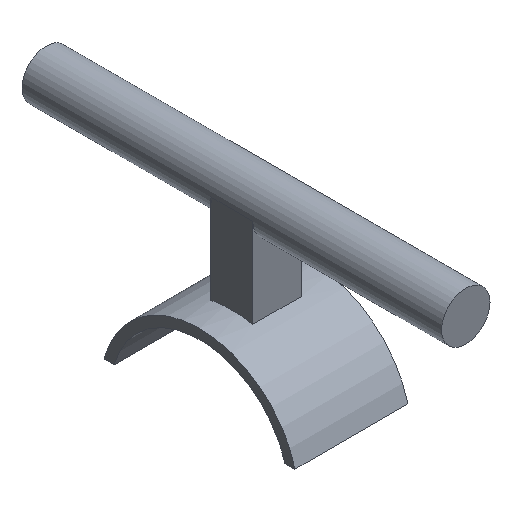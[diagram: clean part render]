
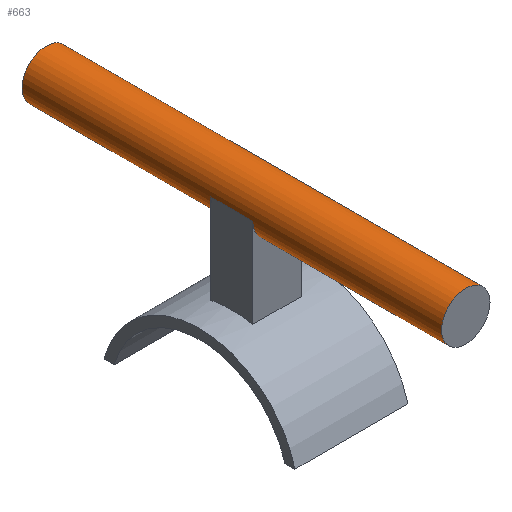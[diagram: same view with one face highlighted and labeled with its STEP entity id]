
A CAD part, isometric view. The second image highlights one B-rep face of the part: STEP entity #663.
In plain terms, the highlighted cylindrical face has radius 15 mm (diameter 30 mm), a full revolution.
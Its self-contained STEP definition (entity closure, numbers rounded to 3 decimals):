
#157 = PLANE('',#158);
#158 = AXIS2_PLACEMENT_3D('',#159,#160,#161);
#159 = CARTESIAN_POINT('',(465.,-13.,55.));
#160 = DIRECTION('',(1.,0.,0.));
#161 = DIRECTION('',(0.,0.,1.));
#188 = PLANE('',#189);
#189 = AXIS2_PLACEMENT_3D('',#190,#191,#192);
#190 = CARTESIAN_POINT('',(465.,-13.,55.));
#191 = DIRECTION('',(0.,1.,0.));
#192 = DIRECTION('',(0.,0.,1.));
#216 = PLANE('',#217);
#217 = AXIS2_PLACEMENT_3D('',#218,#219,#220);
#218 = CARTESIAN_POINT('',(495.,-13.,55.));
#219 = DIRECTION('',(1.,0.,0.));
#220 = DIRECTION('',(0.,0.,1.));
#245 = PLANE('',#246);
#246 = AXIS2_PLACEMENT_3D('',#247,#248,#249);
#247 = CARTESIAN_POINT('',(465.,13.,55.));
#248 = DIRECTION('',(0.,1.,0.));
#249 = DIRECTION('',(0.,0.,1.));
#451 = VERTEX_POINT('',#452);
#452 = CARTESIAN_POINT('',(465.,-13.,115.));
#475 = VERTEX_POINT('',#476);
#476 = CARTESIAN_POINT('',(465.,13.,115.));
#497 = EDGE_CURVE('',#451,#475,#498,.T.);
#498 = SURFACE_CURVE('',#499,(#503,#510),.PCURVE_S1.);
#499 = LINE('',#500,#501);
#500 = CARTESIAN_POINT('',(465.,-13.,115.));
#501 = VECTOR('',#502,1.);
#502 = DIRECTION('',(0.,1.,0.));
#503 = PCURVE('',#157,#504);
#504 = DEFINITIONAL_REPRESENTATION('',(#505),#509);
#505 = LINE('',#506,#507);
#506 = CARTESIAN_POINT('',(60.,0.));
#507 = VECTOR('',#508,1.);
#508 = DIRECTION('',(0.,-1.));
#509 = ( GEOMETRIC_REPRESENTATION_CONTEXT(2) 
PARAMETRIC_REPRESENTATION_CONTEXT() REPRESENTATION_CONTEXT('2D SPACE',''
  ) );
#510 = PCURVE('',#511,#516);
#511 = CYLINDRICAL_SURFACE('',#512,15.);
#512 = AXIS2_PLACEMENT_3D('',#513,#514,#515);
#513 = CARTESIAN_POINT('',(480.,-130.,115.));
#514 = DIRECTION('',(0.,-1.,0.));
#515 = DIRECTION('',(1.,0.,0.));
#516 = DEFINITIONAL_REPRESENTATION('',(#517),#521);
#517 = LINE('',#518,#519);
#518 = CARTESIAN_POINT('',(3.142,-117.));
#519 = VECTOR('',#520,1.);
#520 = DIRECTION('',(0.,-1.));
#521 = ( GEOMETRIC_REPRESENTATION_CONTEXT(2) 
PARAMETRIC_REPRESENTATION_CONTEXT() REPRESENTATION_CONTEXT('2D SPACE',''
  ) );
#527 = VERTEX_POINT('',#528);
#528 = CARTESIAN_POINT('',(495.,13.,115.));
#551 = EDGE_CURVE('',#475,#527,#552,.T.);
#552 = SURFACE_CURVE('',#553,(#558,#569),.PCURVE_S1.);
#553 = CIRCLE('',#554,15.);
#554 = AXIS2_PLACEMENT_3D('',#555,#556,#557);
#555 = CARTESIAN_POINT('',(480.,13.,115.));
#556 = DIRECTION('',(0.,-1.,0.));
#557 = DIRECTION('',(1.,0.,0.));
#558 = PCURVE('',#245,#559);
#559 = DEFINITIONAL_REPRESENTATION('',(#560),#568);
#560 = ( BOUNDED_CURVE() B_SPLINE_CURVE(2,(#561,#562,#563,#564,#565,#566
,#567),.UNSPECIFIED.,.T.,.F.) B_SPLINE_CURVE_WITH_KNOTS((1,2,2,2,2,1),(
    -2.094,0.,2.094,4.189,6.283,
8.378),.UNSPECIFIED.) CURVE() GEOMETRIC_REPRESENTATION_ITEM() 
RATIONAL_B_SPLINE_CURVE((1.,0.5,1.,0.5,1.,0.5,1.)) REPRESENTATION_ITEM(
  '') );
#561 = CARTESIAN_POINT('',(60.,30.));
#562 = CARTESIAN_POINT('',(85.981,30.));
#563 = CARTESIAN_POINT('',(72.99,7.5));
#564 = CARTESIAN_POINT('',(60.,-15.));
#565 = CARTESIAN_POINT('',(47.01,7.5));
#566 = CARTESIAN_POINT('',(34.019,30.));
#567 = CARTESIAN_POINT('',(60.,30.));
#568 = ( GEOMETRIC_REPRESENTATION_CONTEXT(2) 
PARAMETRIC_REPRESENTATION_CONTEXT() REPRESENTATION_CONTEXT('2D SPACE',''
  ) );
#569 = PCURVE('',#511,#570);
#570 = DEFINITIONAL_REPRESENTATION('',(#571),#575);
#571 = LINE('',#572,#573);
#572 = CARTESIAN_POINT('',(0.,-143.));
#573 = VECTOR('',#574,1.);
#574 = DIRECTION('',(1.,0.));
#575 = ( GEOMETRIC_REPRESENTATION_CONTEXT(2) 
PARAMETRIC_REPRESENTATION_CONTEXT() REPRESENTATION_CONTEXT('2D SPACE',''
  ) );
#581 = VERTEX_POINT('',#582);
#582 = CARTESIAN_POINT('',(495.,-13.,115.));
#605 = EDGE_CURVE('',#581,#527,#606,.T.);
#606 = SURFACE_CURVE('',#607,(#611,#618),.PCURVE_S1.);
#607 = LINE('',#608,#609);
#608 = CARTESIAN_POINT('',(495.,-13.,115.));
#609 = VECTOR('',#610,1.);
#610 = DIRECTION('',(0.,1.,0.));
#611 = PCURVE('',#216,#612);
#612 = DEFINITIONAL_REPRESENTATION('',(#613),#617);
#613 = LINE('',#614,#615);
#614 = CARTESIAN_POINT('',(60.,0.));
#615 = VECTOR('',#616,1.);
#616 = DIRECTION('',(0.,-1.));
#617 = ( GEOMETRIC_REPRESENTATION_CONTEXT(2) 
PARAMETRIC_REPRESENTATION_CONTEXT() REPRESENTATION_CONTEXT('2D SPACE',''
  ) );
#618 = PCURVE('',#511,#619);
#619 = DEFINITIONAL_REPRESENTATION('',(#620),#623);
#620 = B_SPLINE_CURVE_WITH_KNOTS('',1,(#621,#622),.UNSPECIFIED.,.F.,.F.,
  (2,2),(0.,26.),.PIECEWISE_BEZIER_KNOTS.);
#621 = CARTESIAN_POINT('',(0.,-117.));
#622 = CARTESIAN_POINT('',(0.,-143.));
#623 = ( GEOMETRIC_REPRESENTATION_CONTEXT(2) 
PARAMETRIC_REPRESENTATION_CONTEXT() REPRESENTATION_CONTEXT('2D SPACE',''
  ) );
#631 = EDGE_CURVE('',#451,#581,#632,.T.);
#632 = SURFACE_CURVE('',#633,(#638,#649),.PCURVE_S1.);
#633 = CIRCLE('',#634,15.);
#634 = AXIS2_PLACEMENT_3D('',#635,#636,#637);
#635 = CARTESIAN_POINT('',(480.,-13.,115.));
#636 = DIRECTION('',(0.,-1.,0.));
#637 = DIRECTION('',(1.,0.,0.));
#638 = PCURVE('',#188,#639);
#639 = DEFINITIONAL_REPRESENTATION('',(#640),#648);
#640 = ( BOUNDED_CURVE() B_SPLINE_CURVE(2,(#641,#642,#643,#644,#645,#646
,#647),.UNSPECIFIED.,.T.,.F.) B_SPLINE_CURVE_WITH_KNOTS((1,2,2,2,2,1),(
    -2.094,0.,2.094,4.189,6.283,
8.378),.UNSPECIFIED.) CURVE() GEOMETRIC_REPRESENTATION_ITEM() 
RATIONAL_B_SPLINE_CURVE((1.,0.5,1.,0.5,1.,0.5,1.)) REPRESENTATION_ITEM(
  '') );
#641 = CARTESIAN_POINT('',(60.,30.));
#642 = CARTESIAN_POINT('',(85.981,30.));
#643 = CARTESIAN_POINT('',(72.99,7.5));
#644 = CARTESIAN_POINT('',(60.,-15.));
#645 = CARTESIAN_POINT('',(47.01,7.5));
#646 = CARTESIAN_POINT('',(34.019,30.));
#647 = CARTESIAN_POINT('',(60.,30.));
#648 = ( GEOMETRIC_REPRESENTATION_CONTEXT(2) 
PARAMETRIC_REPRESENTATION_CONTEXT() REPRESENTATION_CONTEXT('2D SPACE',''
  ) );
#649 = PCURVE('',#511,#650);
#650 = DEFINITIONAL_REPRESENTATION('',(#651),#655);
#651 = LINE('',#652,#653);
#652 = CARTESIAN_POINT('',(0.,-117.));
#653 = VECTOR('',#654,1.);
#654 = DIRECTION('',(1.,0.));
#655 = ( GEOMETRIC_REPRESENTATION_CONTEXT(2) 
PARAMETRIC_REPRESENTATION_CONTEXT() REPRESENTATION_CONTEXT('2D SPACE',''
  ) );
#663 = ADVANCED_FACE('',(#664),#511,.T.);
#664 = FACE_BOUND('',#665,.T.);
#665 = EDGE_LOOP('',(#666,#695,#716,#717,#740,#767,#768,#769,#770,#771)
  );
#666 = ORIENTED_EDGE('',*,*,#667,.F.);
#667 = EDGE_CURVE('',#668,#668,#670,.T.);
#668 = VERTEX_POINT('',#669);
#669 = CARTESIAN_POINT('',(495.,-130.,115.));
#670 = SURFACE_CURVE('',#671,(#676,#683),.PCURVE_S1.);
#671 = CIRCLE('',#672,15.);
#672 = AXIS2_PLACEMENT_3D('',#673,#674,#675);
#673 = CARTESIAN_POINT('',(480.,-130.,115.));
#674 = DIRECTION('',(0.,-1.,0.));
#675 = DIRECTION('',(1.,0.,0.));
#676 = PCURVE('',#511,#677);
#677 = DEFINITIONAL_REPRESENTATION('',(#678),#682);
#678 = LINE('',#679,#680);
#679 = CARTESIAN_POINT('',(0.,0.));
#680 = VECTOR('',#681,1.);
#681 = DIRECTION('',(1.,0.));
#682 = ( GEOMETRIC_REPRESENTATION_CONTEXT(2) 
PARAMETRIC_REPRESENTATION_CONTEXT() REPRESENTATION_CONTEXT('2D SPACE',''
  ) );
#683 = PCURVE('',#684,#689);
#684 = PLANE('',#685);
#685 = AXIS2_PLACEMENT_3D('',#686,#687,#688);
#686 = CARTESIAN_POINT('',(480.,-130.,115.));
#687 = DIRECTION('',(-0.,-1.,-0.));
#688 = DIRECTION('',(0.,0.,-1.));
#689 = DEFINITIONAL_REPRESENTATION('',(#690),#694);
#690 = CIRCLE('',#691,15.);
#691 = AXIS2_PLACEMENT_2D('',#692,#693);
#692 = CARTESIAN_POINT('',(0.,0.));
#693 = DIRECTION('',(0.,1.));
#694 = ( GEOMETRIC_REPRESENTATION_CONTEXT(2) 
PARAMETRIC_REPRESENTATION_CONTEXT() REPRESENTATION_CONTEXT('2D SPACE',''
  ) );
#695 = ORIENTED_EDGE('',*,*,#696,.T.);
#696 = EDGE_CURVE('',#668,#581,#697,.T.);
#697 = SEAM_CURVE('',#698,(#702,#709),.PCURVE_S1.);
#698 = LINE('',#699,#700);
#699 = CARTESIAN_POINT('',(495.,-130.,115.));
#700 = VECTOR('',#701,1.);
#701 = DIRECTION('',(-0.,1.,-0.));
#702 = PCURVE('',#511,#703);
#703 = DEFINITIONAL_REPRESENTATION('',(#704),#708);
#704 = LINE('',#705,#706);
#705 = CARTESIAN_POINT('',(6.283,0.));
#706 = VECTOR('',#707,1.);
#707 = DIRECTION('',(0.,-1.));
#708 = ( GEOMETRIC_REPRESENTATION_CONTEXT(2) 
PARAMETRIC_REPRESENTATION_CONTEXT() REPRESENTATION_CONTEXT('2D SPACE',''
  ) );
#709 = PCURVE('',#511,#710);
#710 = DEFINITIONAL_REPRESENTATION('',(#711),#715);
#711 = LINE('',#712,#713);
#712 = CARTESIAN_POINT('',(0.,0.));
#713 = VECTOR('',#714,1.);
#714 = DIRECTION('',(0.,-1.));
#715 = ( GEOMETRIC_REPRESENTATION_CONTEXT(2) 
PARAMETRIC_REPRESENTATION_CONTEXT() REPRESENTATION_CONTEXT('2D SPACE',''
  ) );
#716 = ORIENTED_EDGE('',*,*,#605,.T.);
#717 = ORIENTED_EDGE('',*,*,#718,.T.);
#718 = EDGE_CURVE('',#527,#719,#721,.T.);
#719 = VERTEX_POINT('',#720);
#720 = CARTESIAN_POINT('',(495.,130.,115.));
#721 = SEAM_CURVE('',#722,(#726,#733),.PCURVE_S1.);
#722 = LINE('',#723,#724);
#723 = CARTESIAN_POINT('',(495.,-130.,115.));
#724 = VECTOR('',#725,1.);
#725 = DIRECTION('',(-0.,1.,-0.));
#726 = PCURVE('',#511,#727);
#727 = DEFINITIONAL_REPRESENTATION('',(#728),#732);
#728 = LINE('',#729,#730);
#729 = CARTESIAN_POINT('',(6.283,0.));
#730 = VECTOR('',#731,1.);
#731 = DIRECTION('',(0.,-1.));
#732 = ( GEOMETRIC_REPRESENTATION_CONTEXT(2) 
PARAMETRIC_REPRESENTATION_CONTEXT() REPRESENTATION_CONTEXT('2D SPACE',''
  ) );
#733 = PCURVE('',#511,#734);
#734 = DEFINITIONAL_REPRESENTATION('',(#735),#739);
#735 = LINE('',#736,#737);
#736 = CARTESIAN_POINT('',(0.,0.));
#737 = VECTOR('',#738,1.);
#738 = DIRECTION('',(0.,-1.));
#739 = ( GEOMETRIC_REPRESENTATION_CONTEXT(2) 
PARAMETRIC_REPRESENTATION_CONTEXT() REPRESENTATION_CONTEXT('2D SPACE',''
  ) );
#740 = ORIENTED_EDGE('',*,*,#741,.T.);
#741 = EDGE_CURVE('',#719,#719,#742,.T.);
#742 = SURFACE_CURVE('',#743,(#748,#755),.PCURVE_S1.);
#743 = CIRCLE('',#744,15.);
#744 = AXIS2_PLACEMENT_3D('',#745,#746,#747);
#745 = CARTESIAN_POINT('',(480.,130.,115.));
#746 = DIRECTION('',(0.,-1.,0.));
#747 = DIRECTION('',(1.,0.,0.));
#748 = PCURVE('',#511,#749);
#749 = DEFINITIONAL_REPRESENTATION('',(#750),#754);
#750 = LINE('',#751,#752);
#751 = CARTESIAN_POINT('',(0.,-260.));
#752 = VECTOR('',#753,1.);
#753 = DIRECTION('',(1.,0.));
#754 = ( GEOMETRIC_REPRESENTATION_CONTEXT(2) 
PARAMETRIC_REPRESENTATION_CONTEXT() REPRESENTATION_CONTEXT('2D SPACE',''
  ) );
#755 = PCURVE('',#756,#761);
#756 = PLANE('',#757);
#757 = AXIS2_PLACEMENT_3D('',#758,#759,#760);
#758 = CARTESIAN_POINT('',(480.,130.,115.));
#759 = DIRECTION('',(-0.,-1.,-0.));
#760 = DIRECTION('',(0.,0.,-1.));
#761 = DEFINITIONAL_REPRESENTATION('',(#762),#766);
#762 = CIRCLE('',#763,15.);
#763 = AXIS2_PLACEMENT_2D('',#764,#765);
#764 = CARTESIAN_POINT('',(0.,0.));
#765 = DIRECTION('',(0.,1.));
#766 = ( GEOMETRIC_REPRESENTATION_CONTEXT(2) 
PARAMETRIC_REPRESENTATION_CONTEXT() REPRESENTATION_CONTEXT('2D SPACE',''
  ) );
#767 = ORIENTED_EDGE('',*,*,#718,.F.);
#768 = ORIENTED_EDGE('',*,*,#551,.F.);
#769 = ORIENTED_EDGE('',*,*,#497,.F.);
#770 = ORIENTED_EDGE('',*,*,#631,.T.);
#771 = ORIENTED_EDGE('',*,*,#696,.F.);
